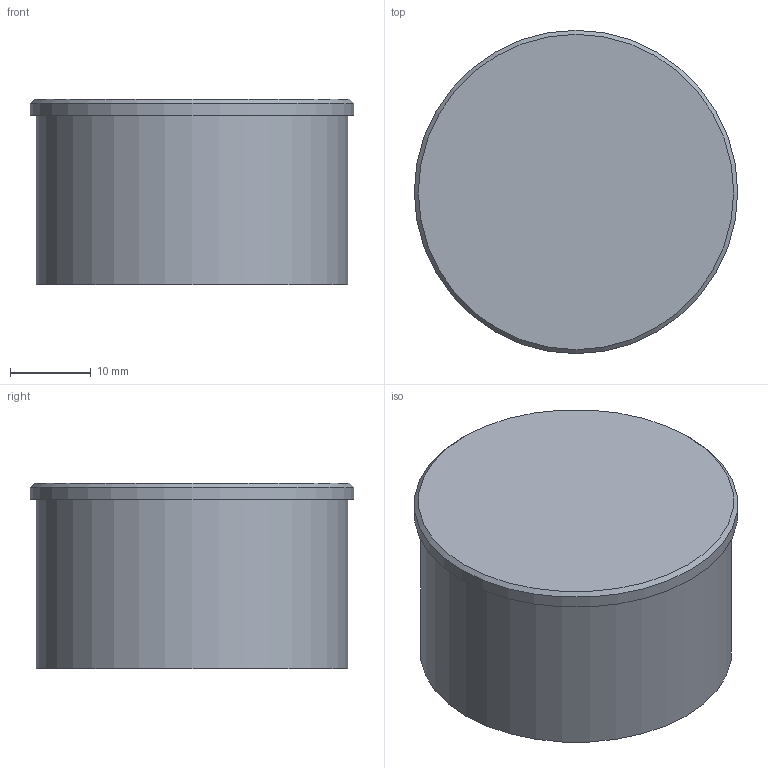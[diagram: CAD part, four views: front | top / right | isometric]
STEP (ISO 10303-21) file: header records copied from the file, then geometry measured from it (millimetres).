
FILE_DESCRIPTION (( 'STEP AP214' ), '1' );
FILE_NAME ('ﾂﾇﾊﾂ5ﾀ.STEP', '2021-05-19T08:11:55', ( '' ), ( '' ), 'SwSTEP 2.0', 'SolidWorks 2018', '' );
FILE_SCHEMA (( 'AUTOMOTIVE_DESIGN' ));
Length unit declared in the file: millimetre
Products named in the file (1): ﾂﾇﾊﾂ5ﾀ
Bounding box: 40 x 40 x 23 mm (x, y, z)
Volume: 12842.4 mm3; surface area: 6951.3 mm2
Topology: 1 solids, 1 shells, 8 faces, 11 edges, 7 vertices
Faces by surface type: plane 4, cylinder 3, cone 1
Full cylindrical faces by diameter (mm): 33.5 x1, 38.5 x1, 40 x1
Entity records: 188 total; most frequent: DIRECTION 32, CARTESIAN_POINT 23, AXIS2_PLACEMENT_3D 16, EDGE_LOOP 14, ORIENTED_EDGE 14, FACE_OUTER_BOUND 11, ADVANCED_FACE 8, VERTEX_POINT 7
